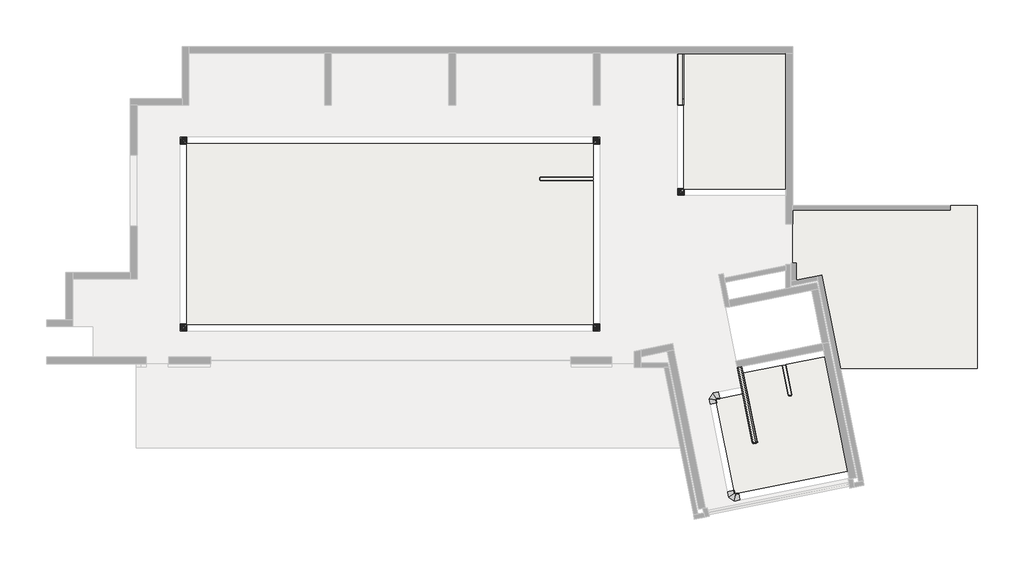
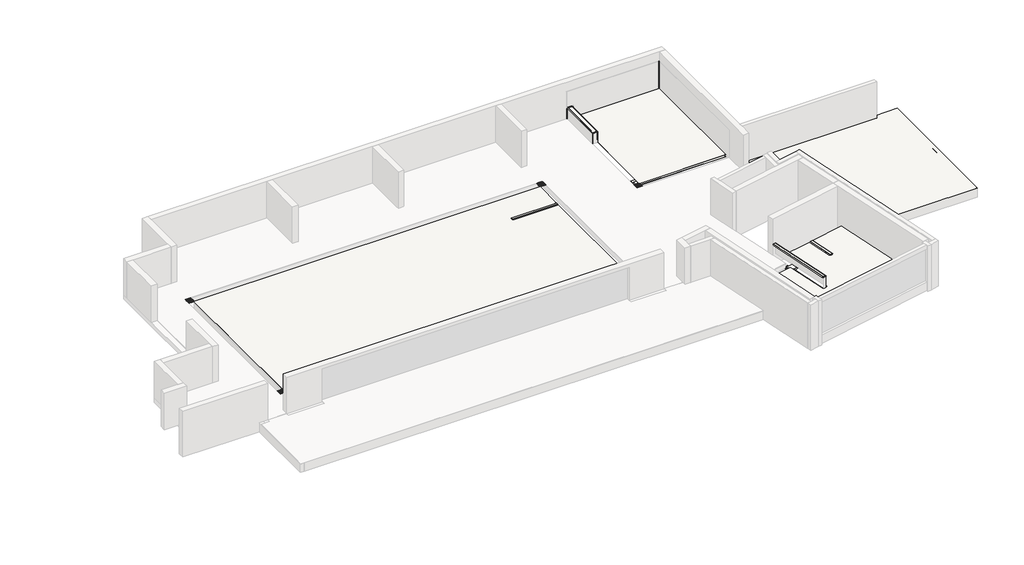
# One storey, part 2 of 2: 57 slabs, 14 proxies.
"""IFC4 building model written with IfcOpenShell, lengths in millimetres."""

from ifc_helpers import new_model, si_unit, point, frame, frame_2d, origin, place, context, project, spatial, polyline, circle_curve, trimmed, segment, composite_curve, outline, extrude, transform, mapped, element, save
from components import generic_models_d8669382, pieza_114_aqua_azul_liso_fd1d6eeb, pieza_115_aqua_azul_anti_slip_2f38e3b8, pieza_116_aqua_azul_liso_e9a23e22, rejilla_245_e2_blanco_63b6c073, rejilla_245_e2_blanco_29759594, pieza_112_aqua_azul_liso_81c370b3, pieza_112_aqua_azul_liso_8ca1fe8c, pieza_112_aqua_azul_liso_fe8c457d, pieza_112_aqua_azul_liso_8538c3ba, pieza_112_aqua_azul_liso_0fc99386, pieza_112_aqua_azul_liso_51e2d1d1, pieza_138_aqua_azul_liso_8d88db99, pieza_138_aqua_azul_liso_f5fe175b, pieza_138_aqua_azul_liso_dbd9f64d, pieza_138_aqua_azul_liso_cda4063a, pieza_138_aqua_azul_liso_f21874c8, pieza_138_aqua_azul_liso_9ae604b9, pieza_138_aqua_azul_liso_93942e5e, pieza_138_aqua_azul_liso_7f7dfdbc, pieza_138_aqua_azul_liso_8f6b2f5e, pieza_138_aqua_azul_liso_958fb2f0

model = new_model("IFC4")

# Units and contexts
model_context = context("Model", 3, world=origin())
ifc_project = project(units=[si_unit("LENGTHUNIT", "METRE", prefix="MILLI")], contexts=[model_context])

# Site, building, storey
site = spatial("IfcSite", under=ifc_project)
building = spatial("IfcBuilding", under=site)
storey = spatial("IfcBuildingStorey", under=building, Name="1_NPlaya", Elevation=-0.4)

# Proxies
placement = place(None, origin())
generic_models_shape = generic_models_d8669382(model_context)
element("IfcBuildingElementProxy", 1, Name="ROSA GRES_SI3 : Pieza SI3_Serena_Griggio_Anti-Slip", ObjectType="ROSA GRES_SI3 : Pieza SI3_Serena_Griggio_Anti-Slip", at=placement, inside=storey, context=model_context, shape_type="MappedRepresentation", body=[
    mapped(generic_models_shape, transform((31737.0262419, -42709.5183159, -12.4), x_axis=(-0.9805675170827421, -0.1961819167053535, 0.0), y_axis=(0.1961819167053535, -0.9805675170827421, 0.0), z_axis=(0.0, 0.0, 1.0))),
])
element("IfcBuildingElementProxy", 2, Name="ROSA GRES_SI3 : Pieza SI3_Serena_Griggio_Anti-Slip", ObjectType="ROSA GRES_SI3 : Pieza SI3_Serena_Griggio_Anti-Slip", at=placement, inside=storey, context=model_context, shape_type="MappedRepresentation", body=[
    mapped(generic_models_shape, transform((30899.0163535, -38520.9300436, -12.4), x_axis=(-0.19618191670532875, 0.9805675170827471, 0.0), y_axis=(-0.9805675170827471, -0.19618191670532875, 0.0), z_axis=(0.0, 0.0, 1.0))),
])
pieza_114_aqua_azul_liso_shape = pieza_114_aqua_azul_liso_fd1d6eeb(model_context)
element("IfcBuildingElementProxy", 3, Name="ROSA GRES_114 : Pieza 114_Aqua_Azul_Liso", ObjectType="ROSA GRES_114 : Pieza 114_Aqua_Azul_Liso", at=placement, inside=storey, context=model_context, shape_type="MappedRepresentation", body=[
    mapped(pieza_114_aqua_azul_liso_shape, transform((7467.4008663, -27191.4576466, -1360.4), x_axis=(1.0, 0.0, 0.0), y_axis=(0.0, 1.0, 0.0), z_axis=(0.0, 0.0, 1.0))),
])
element("IfcBuildingElementProxy", 4, Name="ROSA GRES_114 : Pieza 114_Aqua_Azul_Liso", ObjectType="ROSA GRES_114 : Pieza 114_Aqua_Azul_Liso", at=placement, inside=storey, context=model_context, shape_type="MappedRepresentation", body=[
    mapped(pieza_114_aqua_azul_liso_shape, transform((7467.4008663, -35211.5285494, -1360.4), x_axis=(0.0, 1.0, 0.0), y_axis=(-1.0, 0.0, 0.0), z_axis=(0.0, 0.0, 1.0))),
])
pieza_115_aqua_azul_anti_slip_shape = pieza_115_aqua_azul_anti_slip_2f38e3b8(model_context)
element("IfcBuildingElementProxy", 5, Name="ROSA GRES_115 : Pieza 115_Aqua_Azul_Anti-Slip", ObjectType="ROSA GRES_115 : Pieza 115_Aqua_Azul_Anti-Slip", at=placement, inside=storey, context=model_context, shape_type="MappedRepresentation", body=[
    mapped(pieza_115_aqua_azul_anti_slip_shape, transform((32705.3781832, -40413.35567, -26.3454542), x_axis=(0.9805675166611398, 0.19618191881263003, 0.0), y_axis=(-0.19618191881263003, 0.9805675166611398, 0.0), z_axis=(0.0, 0.0, 1.0))),
])
element("IfcBuildingElementProxy", 6, Name="ROSA GRES_115 : Pieza 115_Aqua_Azul_Anti-Slip", ObjectType="ROSA GRES_115 : Pieza 115_Aqua_Azul_Anti-Slip", at=placement, inside=storey, context=model_context, shape_type="MappedRepresentation", body=[
    mapped(pieza_115_aqua_azul_anti_slip_shape, transform((32666.2047747, -40421.1659843, 559.6), x_axis=(0.9805675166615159, 0.1961819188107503, 0.0), y_axis=(-0.1961819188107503, 0.9805675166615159, 0.0), z_axis=(0.0, 0.0, 1.0))),
])
element("IfcBuildingElementProxy", 7, Name="ROSA GRES_115 : Pieza 115_Aqua_Azul_Anti-Slip", ObjectType="ROSA GRES_115 : Pieza 115_Aqua_Azul_Anti-Slip", at=placement, inside=storey, context=model_context, shape_type="MappedRepresentation", body=[
    mapped(pieza_115_aqua_azul_anti_slip_shape, transform((32547.9977844, -40444.8156278, 559.6), x_axis=(0.1961820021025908, -0.9805674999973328, 0.0), y_axis=(0.9805674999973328, 0.1961820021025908, 0.0), z_axis=(0.0, 0.0, 1.0))),
])
pieza_116_aqua_azul_liso_shape = pieza_116_aqua_azul_liso_e9a23e22(model_context)
element("IfcBuildingElementProxy", 8, Name="ROSA GRES_116 : Pieza 116_Aqua_Azul_Liso", ObjectType="ROSA GRES_116 : Pieza 116_Aqua_Azul_Liso", at=placement, inside=storey, context=model_context, shape_type="MappedRepresentation", body=[
    mapped(pieza_116_aqua_azul_liso_shape, transform((34328.107284, -38304.0158219, -660.5), x_axis=(0.9805675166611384, 0.19618191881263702, 0.0), y_axis=(-0.19618191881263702, 0.9805675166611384, 0.0), z_axis=(0.0, 0.0, 1.0))),
])
element("IfcBuildingElementProxy", 9, Name="ROSA GRES_116 : Pieza 116_Aqua_Azul_Liso", ObjectType="ROSA GRES_116 : Pieza 116_Aqua_Azul_Liso", at=placement, inside=storey, context=model_context, shape_type="MappedRepresentation", body=[
    mapped(pieza_116_aqua_azul_liso_shape, transform((34023.8930277, -38364.8527439, -660.5), x_axis=(0.196181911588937, -0.9805675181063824, 0.0), y_axis=(0.9805675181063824, 0.196181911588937, 0.0), z_axis=(0.0, 0.0, 1.0))),
])
rejilla_245_e2_blanco_shape = rejilla_245_e2_blanco_63b6c073(model_context)
element("IfcBuildingElementProxy", 10, Name="ROSA GRES_245 E2 : Rejilla 245 E2_Blanco", ObjectType="ROSA GRES_245 E2 : Rejilla 245 E2_Blanco", at=placement, inside=storey, context=model_context, shape_type="MappedRepresentation", body=[
    mapped(rejilla_245_e2_blanco_shape, transform((7437.445438, -35241.4839777, -228.8), x_axis=(-1.0, 0.0, 0.0), y_axis=(0.0, -1.0, 0.0), z_axis=(0.0, 0.0, 1.0))),
])
element("IfcBuildingElementProxy", 11, Name="ROSA GRES_245 E2 : Rejilla 245 E2_Blanco", ObjectType="ROSA GRES_245 E2 : Rejilla 245 E2_Blanco", at=placement, inside=storey, context=model_context, shape_type="MappedRepresentation", body=[
    mapped(rejilla_245_e2_blanco_shape, transform((7437.445438, -27161.5022183, -228.8), x_axis=(0.0, 1.0, 0.0), y_axis=(-1.0, 0.0, 0.0), z_axis=(0.0, 0.0, 1.0))),
])
element("IfcBuildingElementProxy", 12, Name="ROSA GRES_245 E2 : Rejilla 245 E2_Blanco", ObjectType="ROSA GRES_245 E2 : Rejilla 245 E2_Blanco", at=placement, inside=storey, context=model_context, shape_type="MappedRepresentation", body=[
    mapped(rejilla_245_e2_blanco_shape, transform((29437.4363177, -29241.493098, -228.75), x_axis=(-1.0, 0.0, 0.0), y_axis=(0.0, -1.0, 0.0), z_axis=(0.0, 0.0, 1.0))),
])
rejilla_245_e2_blanco_2_shape = rejilla_245_e2_blanco_29759594(model_context)
element("IfcBuildingElementProxy", 13, Name="ROSA GRES_245 E2 : Rejilla 245 E2_Blanco", ObjectType="ROSA GRES_245 E2 : Rejilla 245 E2_Blanco", at=placement, inside=storey, context=model_context, shape_type="MappedRepresentation", body=[
    mapped(rejilla_245_e2_blanco_2_shape, transform((25517.4363125, -35241.4839777, -228.8), x_axis=(1.0, 0.0, 0.0), y_axis=(0.0, 1.0, 0.0), z_axis=(0.0, 0.0, 1.0))),
])
element("IfcBuildingElementProxy", 14, Name="ROSA GRES_245 E2 : Rejilla 245 E2_Blanco", ObjectType="ROSA GRES_245 E2 : Rejilla 245 E2_Blanco", at=placement, inside=storey, context=model_context, shape_type="MappedRepresentation", body=[
    mapped(rejilla_245_e2_blanco_2_shape, transform((25517.4363125, -27161.5022183, -228.8), x_axis=(0.0, 1.0, 0.0), y_axis=(-1.0, 0.0, 0.0), z_axis=(0.0, 0.0, 1.0))),
])

# Slabs
element("IfcSlab", 15, ObjectType="Pieza 244 G1_Patrón Recto_Aqua_Azul_Anti-Slip", at=placement, inside=storey, context=model_context, shape_type="SweptSolid", body=[
    extrude(outline(polyline([(23194.4590312, -27201.493098), (23377.4421424, -27201.493098), (23377.4421424, -28651.493098), (23194.4590312, -28651.493098), (23194.4590312, -27201.493098)])), frame((0.0, 0.0, -1126.9281195), z_axis=(0.0, 0.0, 1.0), x_axis=(1.0, 0.0, 0.0)), (0.0, 0.0, 1.0), 9.0),
])
element("IfcSlab", 16, ObjectType="Pieza 244 G1_Patrón Recto_Aqua_Azul_Anti-Slip", at=placement, inside=storey, context=model_context, shape_type="SweptSolid", body=[
    extrude(outline(polyline([(23494.4590312, -27201.493098), (23677.4421424, -27201.493098), (23677.4421424, -28651.493098), (23494.4590312, -28651.493098), (23494.4590312, -27201.493098)])), frame((0.0, 0.0, -987.0881195), z_axis=(0.0, 0.0, 1.0), x_axis=(1.0, 0.0, 0.0)), (0.0, 0.0, 1.0), 9.0),
])
element("IfcSlab", 17, ObjectType="Pieza 244 G1_Patrón Recto_Aqua_Azul_Anti-Slip", at=placement, inside=storey, context=model_context, shape_type="SweptSolid", body=[
    extrude(outline(polyline([(23794.4590312, -27201.493098), (23977.4421424, -27201.493098), (23977.4421424, -28651.493098), (23794.4590312, -28651.493098), (23794.4590312, -27201.493098)])), frame((0.0, 0.0, -847.2481195), z_axis=(0.0, 0.0, 1.0), x_axis=(1.0, 0.0, 0.0)), (0.0, 0.0, 1.0), 9.0),
])
element("IfcSlab", 18, ObjectType="Pieza 244 G1_Patrón Recto_Aqua_Azul_Anti-Slip", at=placement, inside=storey, context=model_context, shape_type="SweptSolid", body=[
    extrude(outline(polyline([(24094.4590312, -27201.493098), (24277.4421424, -27201.493098), (24277.4421424, -28651.493098), (24094.4590312, -28651.493098), (24094.4590312, -27201.493098)])), frame((0.0, 0.0, -707.4081195), z_axis=(0.0, 0.0, 1.0), x_axis=(1.0, 0.0, 0.0)), (0.0, 0.0, 1.0), 9.0),
])
element("IfcSlab", 19, ObjectType="Pieza 244 G1_Patrón Recto_Aqua_Azul_Anti-Slip", at=placement, inside=storey, context=model_context, shape_type="SweptSolid", body=[
    extrude(outline(polyline([(24394.4590312, -27201.493098), (24577.4421424, -27201.493098), (24577.4421424, -28651.493098), (24394.4590312, -28651.493098), (24394.4590312, -27201.493098)])), frame((0.0, 0.0, -567.5681195), z_axis=(0.0, 0.0, 1.0), x_axis=(1.0, 0.0, 0.0)), (0.0, 0.0, 1.0), 9.0),
])
element("IfcSlab", 20, ObjectType="Pieza 244 G1_Patrón Recto_Aqua_Azul_Anti-Slip", at=placement, inside=storey, context=model_context, shape_type="SweptSolid", body=[
    extrude(outline(polyline([(24694.4590312, -27201.493098), (24877.4421424, -27201.493098), (24877.4421424, -28651.493098), (24694.4590312, -28651.493098), (24694.4590312, -27201.493098)])), frame((0.0, 0.0, -427.7281195), z_axis=(0.0, 0.0, 1.0), x_axis=(1.0, 0.0, 0.0)), (0.0, 0.0, 1.0), 9.0),
])
element("IfcSlab", 21, ObjectType="Pieza 244 G1_Patrón Recto_Aqua_Azul_Anti-Slip", at=placement, inside=storey, context=model_context, shape_type="SweptSolid", body=[
    extrude(outline(polyline([(24994.4590312, -27201.493098), (25177.4421424, -27201.493098), (25177.4421424, -28651.493098), (24994.4590312, -28651.493098), (24994.4590312, -27201.493098)])), frame((0.0, 0.0, -287.8881195), z_axis=(0.0, 0.0, 1.0), x_axis=(1.0, 0.0, 0.0)), (0.0, 0.0, 1.0), 9.0),
])
element("IfcSlab", 22, ObjectType="Pieza 244 G1_Patrón Recto_Aqua_Azul_Anti-Slip", at=placement, inside=storey, context=model_context, shape_type="SweptSolid", body=[
    extrude(outline(polyline([(25294.4590312, -27201.493098), (25477.4421424, -27201.493098), (25477.4421424, -28651.493098), (25294.4590312, -28651.493098), (25294.4590312, -27201.493098)])), frame((0.0, 0.0, -148.0481195), z_axis=(0.0, 0.0, 1.0), x_axis=(1.0, 0.0, 0.0)), (0.0, 0.0, 1.0), 9.0),
])
element("IfcSlab", 23, ObjectType="Pieza 244 G1_Patrón Recto_Aqua_Azul_Liso", at=placement, inside=storey, context=model_context, shape_type="SweptSolid", body=[
    extrude(outline(polyline([(23117.4363125, -28691.493098), (25477.4363125, -28691.493098), (25477.4363125, -28811.493098), (23117.4363125, -28811.493098), (23117.4363125, -28691.493098)])), frame((0.0, 0.0, -9.4), z_axis=(0.0, 0.0, 1.0), x_axis=(1.0, 0.0, 0.0)), (0.0, 0.0, 1.0), 9.0),
])
element("IfcSlab", 24, ObjectType="Pieza 244 G1_Patrón Recto_Aqua_Azul_Anti-Slip", at=placement, inside=storey, context=model_context, shape_type="SweptSolid", body=[
    extrude(outline(polyline([(33977.4363177, -28418.5581387), (33977.4363177, -28601.5412499), (29477.4363177, -28601.5412499), (29477.4363177, -28418.5581387), (33977.4363177, -28418.5581387)])), frame((0.0, 0.0, -368.8572336), z_axis=(0.0, 0.0, 1.0), x_axis=(1.0, 0.0, 0.0)), (0.0, 0.0, 1.0), 9.0),
])
element("IfcSlab", 25, ObjectType="Pieza 244 G1_Patrón Recto_Aqua_Azul_Anti-Slip", at=placement, inside=storey, context=model_context, shape_type="SweptSolid", body=[
    extrude(outline(polyline([(33977.4363177, -28718.5581387), (33977.4363177, -28901.5412499), (29477.4363177, -28901.5412499), (29477.4363177, -28718.5581387), (33977.4363177, -28718.5581387)])), frame((0.0, 0.0, -248.8572336), z_axis=(0.0, 0.0, 1.0), x_axis=(1.0, 0.0, 0.0)), (0.0, 0.0, 1.0), 9.0),
])
element("IfcSlab", 26, ObjectType="Pieza 244 G1_Patrón Recto_Aqua_Azul_Anti-Slip", at=placement, inside=storey, context=model_context, shape_type="SweptSolid", body=[
    extrude(outline(polyline([(33977.4363177, -29018.5581387), (33977.4363177, -29201.5412499), (29477.4363177, -29201.5412499), (29477.4363177, -29018.5581387), (33977.4363177, -29018.5581387)])), frame((0.0, 0.0, -128.8572336), z_axis=(0.0, 0.0, 1.0), x_axis=(1.0, 0.0, 0.0)), (0.0, 0.0, 1.0), 9.0),
])
element("IfcSlab", 27, ObjectType="Pieza 244 G1_Patrón Recto_Aqua_Azul_Liso", at=placement, inside=storey, context=model_context, shape_type="SweptSolid", body=[
    extrude(outline(polyline([(29232.4363177, -25461.493098), (29232.4363177, -23231.5196866), (29437.4363177, -23231.5196866), (29437.4363177, -25461.493098), (29232.4363177, -25461.493098)])), frame((0.0, 0.0, 590.6), z_axis=(0.0, 0.0, 1.0), x_axis=(1.0, 0.0, 0.0)), (0.0, 0.0, 1.0), 9.0),
])
element("IfcSlab", 28, ObjectType="Pieza 244 G1_Patrón Recto_Aqua_Azul_Liso", at=placement, inside=storey, context=model_context, shape_type="SweptSolid", body=[
    extrude(outline(polyline([(31646.2472972, -42255.7818981), (36245.1090025, -41335.6887327), (36551.2995561, -41618.5142467), (31712.4388002, -42586.6240007), (31646.2472972, -42255.7818981)])), frame((0.0, 0.0, -659.4), z_axis=(0.0, 0.0, 1.0), x_axis=(1.0, 0.0, 0.0)), (0.0, 0.0, 1.0), 9.0),
])
element("IfcSlab", 29, ObjectType="Pieza 244 G1_Patrón Recto_Aqua_Azul_Liso", at=placement, inside=storey, context=model_context, shape_type="SweptSolid", body=[
    extrude(outline(polyline([(36245.1089958, -41335.6887265), (35411.5579265, -37169.3870775), (35585.3443318, -36790.4231062), (36551.2995515, -41618.5142424), (36245.1089958, -41335.6887265)])), frame((0.0, 0.0, -659.4), z_axis=(0.0, 0.0, 1.0), x_axis=(1.0, 0.0, 0.0)), (0.0, 0.0, 1.0), 9.0),
])
element("IfcSlab", 30, ObjectType="Pieza 244 G1_Patrón Recto_Aqua_Azul_Liso", at=placement, inside=storey, context=model_context, shape_type="SweptSolid", body=[
    extrude(outline(polyline([(35411.5579265, -37169.3870775), (34499.6302246, -37351.8362909), (34153.9736146, -37076.8204952), (35585.3325286, -36790.4488446), (35411.5579265, -37169.3870775)])), frame((0.0, 0.0, -659.4), z_axis=(0.0, 0.0, 1.0), x_axis=(1.0, 0.0, 0.0)), (0.0, 0.0, 1.0), 9.0),
])
element("IfcSlab", 31, ObjectType="Pieza 244 G1_Patrón Recto_Aqua_Azul_Liso", at=placement, inside=storey, context=model_context, shape_type="SweptSolid", body=[
    extrude(outline(polyline([(34499.6302246, -37351.8362909), (34773.8089644, -38722.2520336), (34410.4797444, -38358.9228137), (34153.9691097, -37076.8169108), (34499.6302246, -37351.8362909)])), frame((0.0, 0.0, -659.4), z_axis=(0.0, 0.0, 1.0), x_axis=(1.0, 0.0, 0.0)), (0.0, 0.0, 1.0), 9.0),
])
element("IfcSlab", 32, ObjectType="Pieza 244 G1_Patrón Recto_Aqua_Azul_Liso", at=placement, inside=storey, context=model_context, shape_type="SweptSolid", body=[
    extrude(outline(polyline([(34773.8089644, -38722.2520336), (33773.6301407, -38922.3575643), (33969.1800716, -38447.2135383), (34410.4797444, -38358.9228137), (34773.8089644, -38722.2520336)])), frame((0.0, 0.0, -659.4), z_axis=(0.0, 0.0, 1.0), x_axis=(1.0, 0.0, 0.0)), (0.0, 0.0, 1.0), 9.0),
])
element("IfcSlab", 33, ObjectType="Pieza 244 G1_Patrón Recto_Aqua_Azul_Liso", at=placement, inside=storey, context=model_context, shape_type="SweptSolid", body=[
    extrude(outline(polyline([(33773.6301322, -38922.357585), (33499.4513349, -37551.9419036), (33712.6952503, -37165.1070009), (33969.19752, -38447.1711424), (33773.6301322, -38922.357585)])), frame((0.0, 0.0, -659.4), z_axis=(0.0, 0.0, 1.0), x_axis=(1.0, 0.0, 0.0)), (0.0, 0.0, 1.0), 9.0),
])
element("IfcSlab", 34, ObjectType="Pieza 244 G1_Patrón Recto_Aqua_Azul_Liso", at=placement, inside=storey, context=model_context, shape_type="SweptSolid", body=[
    extrude(outline(polyline([(33499.4513349, -37551.9419036), (32587.5235298, -37734.3911165), (32281.2916633, -37451.4876278), (33712.6952503, -37165.1070009), (33499.4513349, -37551.9419036)])), frame((0.0, 0.0, -659.4), z_axis=(0.0, 0.0, 1.0), x_axis=(1.0, 0.0, 0.0)), (0.0, 0.0, 1.0), 9.0),
])
element("IfcSlab", 35, ObjectType="Pieza 244 G1_Patrón Recto_Aqua_Azul_Liso", at=placement, inside=storey, context=model_context, shape_type="SweptSolid", body=[
    extrude(outline(polyline([(32587.5235298, -37734.3911165), (33107.4055811, -40332.8949894), (32867.3818294, -40380.9165077), (32281.2916633, -37451.4876278), (32587.5235298, -37734.3911165)])), frame((0.0, 0.0, -659.4), z_axis=(0.0, 0.0, 1.0), x_axis=(1.0, 0.0, 0.0)), (0.0, 0.0, 1.0), 9.0),
])
element("IfcSlab", 36, ObjectType="Pieza 244 G1_Patrón Recto_Aqua_Azul_Liso", at=placement, inside=storey, context=model_context, shape_type="SweptSolid", body=[
    extrude(outline(polyline([(33849.9121853, -37009.8460142), (33967.5802682, -36986.3041846), (34234.9384401, -38322.6289779), (34117.2703646, -38346.1707761), (33849.9121853, -37009.8460142)])), frame((0.0, 0.0, -21.4), z_axis=(0.0, 0.0, 1.0), x_axis=(1.0, 0.0, 0.0)), (0.0, 0.0, 1.0), 9.0),
])
element("IfcSlab", 37, ObjectType="Pieza 244 G1_Patrón Recto_Aqua_Azul_Anti-Slip", at=placement, inside=storey, context=model_context, shape_type="SweptSolid", body=[
    extrude(outline(polyline([(32547.9977516, -40444.8156353), (31879.9516152, -37105.751283), (31998.1588351, -37082.1015916), (32666.2047744, -40421.1659833), (32547.9977516, -40444.8156353)])), frame((0.0, 0.0, 590.6), z_axis=(0.0, 0.0, 1.0), x_axis=(1.0, 0.0, 0.0)), (0.0, 0.0, 1.0), 9.0),
])
element("IfcSlab", 38, ObjectType="Pieza 316_Patrón 1/3_Serena_Griggio_Anti-Slip", at=placement, inside=storey, context=model_context, shape_type="SweptSolid", body=[
    extrude(outline(polyline([(41277.4363177, -30132.2845833), (41277.4363177, -29932.2846425), (42472.5756156, -29932.2846425), (42472.5756156, -37149.8177469), (36412.5756156, -37149.8177469), (35586.219622, -33019.4786743), (34442.4363177, -33248.3151384), (34442.4363177, -32488.3151384), (34277.4363177, -32488.3151384), (34277.4363177, -30132.2845833), (41277.4363177, -30132.2845833)])), frame((0.0, 0.0, -9.4), z_axis=(0.0, 0.0, 1.0), x_axis=(1.0, 0.0, 0.0)), (0.0, 0.0, 1.0), 9.0),
])
element("IfcSlab", 39, ObjectType="Agua", at=placement, inside=storey, context=model_context, shape_type="SweptSolid", body=[
    extrude(outline(composite_curve([segment(polyline([(25477.3859623, -27201.4916128), (25477.3859623, -28656.493098), (23122.4363125, -28656.493098)]), True, "CONTINUOUS"), segment(trimmed(circle_curve(frame_2d((23122.4363125, -28696.493098)), 40.0), [point((23122.4363125, -28656.493098))], [point((23082.4363125, -28696.493098))], True, "CARTESIAN"), True, "CONTINUOUS"), segment(polyline([(23082.4363125, -28696.493098), (23082.4363125, -28806.493098)]), True, "CONTINUOUS"), segment(trimmed(circle_curve(frame_2d((23122.4363125, -28806.493098)), 40.0), [point((23082.4363125, -28806.493098))], [point((23122.4363125, -28846.493098))], True, "CARTESIAN"), True, "CONTINUOUS"), segment(polyline([(23122.4363125, -28846.493098), (25477.3859623, -28846.493098), (25477.3859623, -35201.493098), (7477.4363177, -35201.493098), (7477.4363177, -27201.4916128), (25477.3859623, -27201.4916128)]), True, "CONTINUOUS")], self_intersect=False)), frame((0.0, 0.0, -21.4), z_axis=(0.0, 0.0, 1.0), x_axis=(1.0, 0.0, 0.0)), (0.0, 0.0, 1.0), 1.0),
])
element("IfcSlab", 40, ObjectType="Agua", at=placement, inside=storey, context=model_context, shape_type="SweptSolid", body=[
    extrude(outline(composite_curve([segment(trimmed(circle_curve(frame_2d((33937.4363177, -23241.493098)), 40.0), [point((33937.4363177, -23201.493098))], [point((33977.4363177, -23241.493098))], False, "CARTESIAN"), True, "CONTINUOUS"), segment(polyline([(33977.4363177, -23241.493098), (33977.4363177, -29201.493098), (29477.4363177, -29201.493098), (29477.4363177, -23241.493098)]), True, "CONTINUOUS"), segment(trimmed(circle_curve(frame_2d((29517.4363177, -23241.493098)), 40.0), [point((29477.4363177, -23241.493098))], [point((29517.4363177, -23201.493098))], False, "CARTESIAN"), True, "CONTINUOUS"), segment(polyline([(29517.4363177, -23201.493098), (33937.4363177, -23201.493098)]), True, "CONTINUOUS")], self_intersect=False)), frame((0.0, 0.0, -21.4), z_axis=(0.0, 0.0, 1.0), x_axis=(1.0, 0.0, 0.0)), (0.0, 0.0, 1.0), 1.0),
])
element("IfcSlab", 41, ObjectType="Agua", at=placement, inside=storey, context=model_context, shape_type="SweptSolid", body=[
    extrude(outline(composite_curve([segment(polyline([(32075.6974306, -38285.5117322), (32509.5508323, -40454.0222656)]), True, "CONTINUOUS"), segment(trimmed(circle_curve(frame_2d((32548.4613093, -40444.7500072)), 40.0), [point((32509.5508323, -40454.0222656))], [point((32554.8734888, -40484.2327117))], True, "CARTESIAN"), True, "CONTINUOUS"), segment(polyline([(32554.8734888, -40484.2327117), (32716.2336801, -40451.9494151)]), True, "CONTINUOUS"), segment(trimmed(circle_curve(frame_2d((32708.3864033, -40412.7267145)), 40.0), [point((32716.2336801, -40451.9494151))], [point((32747.609104, -40404.8794374))], True, "CARTESIAN"), True, "CONTINUOUS"), segment(polyline([(32747.609104, -40404.8794374), (32136.9325324, -37352.5615079), (33810.6894844, -37017.6932921), (34078.0476675, -38354.0180733)]), True, "CONTINUOUS"), segment(trimmed(circle_curve(frame_2d((34117.2703683, -38346.1707968)), 40.0), [point((34078.0476675, -38354.0180733))], [point((34125.117645, -38385.3934975))], True, "CARTESIAN"), True, "CONTINUOUS"), segment(polyline([(34125.117645, -38385.3934975), (34246.8438721, -38361.0397591)]), True, "CONTINUOUS"), segment(trimmed(circle_curve(frame_2d((34234.9436559, -38322.6550476)), 40.1870778), [point((34246.8438721, -38361.0397591))], [point((34274.9261547, -38318.6052316))], True, "CARTESIAN"), True, "CONTINUOUS"), segment(polyline([(34274.9261547, -38318.6052316), (34006.8029504, -36978.4569105), (35692.5110164, -36641.1976378), (36707.6355663, -41715.0496564), (31737.026242, -42709.5183161), (30899.0163535, -38520.9300436), (32075.6974306, -38285.5117322)]), True, "CONTINUOUS")], self_intersect=False)), frame((0.0, 0.0, -41.4), z_axis=(0.0, 0.0, 1.0), x_axis=(1.0, 0.0, 0.0)), (0.0, 0.0, 1.0), 1.0),
])
pieza_112_aqua_azul_liso_shape = pieza_112_aqua_azul_liso_81c370b3(model_context)
element("IfcSlab", 42, ObjectType="ROSA GRES_112 (corte) : Pieza 112_Aqua_Azul_Liso", at=placement, inside=storey, context=model_context, shape_type="MappedRepresentation", body=[
    mapped(pieza_112_aqua_azul_liso_shape, transform((36359.6013384, -41697.6599632, -660.5), x_axis=(0.9805675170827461, 0.19618191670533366, 0.0), y_axis=(-0.19618191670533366, 0.9805675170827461, 0.0), z_axis=(0.0, 0.0, 1.0))),
])
element("IfcSlab", 43, ObjectType="ROSA GRES_112 (corte) : Pieza 112_Aqua_Azul_Liso", at=placement, inside=storey, context=model_context, shape_type="MappedRepresentation", body=[
    mapped(pieza_112_aqua_azul_liso_shape, transform((35664.4960021, -36982.021645, -660.5), x_axis=(-0.19618194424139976, 0.9805675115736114, 0.0), y_axis=(-0.9805675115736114, -0.19618194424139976, 0.0), z_axis=(0.0, 0.0, 1.0))),
])
element("IfcSlab", 44, ObjectType="ROSA GRES_112 (corte) : Pieza 112_Aqua_Azul_Liso", at=placement, inside=storey, context=model_context, shape_type="MappedRepresentation", body=[
    mapped(pieza_112_aqua_azul_liso_shape, transform((34345.671832, -36997.674777, -660.5), x_axis=(-0.9805675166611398, -0.1961819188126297, 0.0), y_axis=(0.1961819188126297, -0.9805675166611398, 0.0), z_axis=(0.0, 0.0, 1.0))),
])
element("IfcSlab", 45, ObjectType="ROSA GRES_112 (corte) : Pieza 112_Aqua_Azul_Liso", at=placement, inside=storey, context=model_context, shape_type="MappedRepresentation", body=[
    mapped(pieza_112_aqua_azul_liso_shape, transform((32472.9898735, -37372.3418986, -660.5), x_axis=(-0.9805675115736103, -0.19618194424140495, 0.0), y_axis=(0.19618194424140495, -0.9805675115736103, 0.0), z_axis=(0.0, 0.0, 1.0))),
])
element("IfcSlab", 46, ObjectType="ROSA GRES_112 (corte) : Pieza 112_Aqua_Azul_Liso", at=placement, inside=storey, context=model_context, shape_type="MappedRepresentation", body=[
    mapped(pieza_112_aqua_azul_liso_shape, transform((33791.8409697, -37356.8052144, -660.5), x_axis=(-0.1961819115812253, 0.9805675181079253, 0.0), y_axis=(-0.9805675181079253, -0.1961819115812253, 0.0), z_axis=(0.0, 0.0, 1.0))),
])
pieza_112_aqua_azul_liso_2_shape = pieza_112_aqua_azul_liso_8ca1fe8c(model_context)
element("IfcSlab", 47, ObjectType="ROSA GRES_112 (corte) : Pieza 112_Aqua_Azul_Liso", at=placement, inside=storey, context=model_context, shape_type="MappedRepresentation", body=[
    mapped(pieza_112_aqua_azul_liso_2_shape, transform((36550.5992263, -41411.1214761, -660.5), x_axis=(0.1961819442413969, -0.980567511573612, 0.0), y_axis=(0.980567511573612, 0.1961819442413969, 0.0), z_axis=(0.0, 0.0, 1.0))),
])
element("IfcSlab", 48, ObjectType="ROSA GRES_112 (corte) : Pieza 112_Aqua_Azul_Liso", at=placement, inside=storey, context=model_context, shape_type="MappedRepresentation", body=[
    mapped(pieza_112_aqua_azul_liso_2_shape, transform((35377.9397626, -36791.1491639, -660.5), x_axis=(0.9805675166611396, 0.19618191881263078, 0.0), y_axis=(-0.19618191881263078, 0.9805675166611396, 0.0), z_axis=(0.0, 0.0, 1.0))),
])
element("IfcSlab", 49, ObjectType="ROSA GRES_112 (corte) : Pieza 112_Aqua_Azul_Liso", at=placement, inside=storey, context=model_context, shape_type="MappedRepresentation", body=[
    mapped(pieza_112_aqua_azul_liso_2_shape, transform((34154.6702931, -37284.213994, -660.5), x_axis=(-0.19618191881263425, 0.980567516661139, 0.0), y_axis=(-0.980567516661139, -0.19618191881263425, 0.0), z_axis=(0.0, 0.0, 1.0))),
])
element("IfcSlab", 50, ObjectType="ROSA GRES_112 (corte) : Pieza 112_Aqua_Azul_Liso", at=placement, inside=storey, context=model_context, shape_type="MappedRepresentation", body=[
    mapped(pieza_112_aqua_azul_liso_2_shape, transform((32281.9927481, -37658.8842176, -660.5), x_axis=(-0.19618191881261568, 0.9805675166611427, 0.0), y_axis=(-0.9805675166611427, -0.19618191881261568, 0.0), z_axis=(0.0, 0.0, 1.0))),
])
element("IfcSlab", 51, ObjectType="ROSA GRES_112 (corte) : Pieza 112_Aqua_Azul_Liso", at=placement, inside=storey, context=model_context, shape_type="MappedRepresentation", body=[
    mapped(pieza_112_aqua_azul_liso_2_shape, transform((33505.3024839, -37165.8073261, -660.5), x_axis=(0.9805675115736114, 0.19618194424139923, 0.0), y_axis=(-0.19618194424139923, 0.9805675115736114, 0.0), z_axis=(0.0, 0.0, 1.0))),
])
pieza_112_aqua_azul_liso_3_shape = pieza_112_aqua_azul_liso_fe8c457d(model_context)
element("IfcSlab", 52, ObjectType="ROSA GRES_112 : Pieza 112_Aqua_Azul_Liso", at=placement, inside=storey, context=model_context, shape_type="MappedRepresentation", body=[
    mapped(pieza_112_aqua_azul_liso_3_shape, transform((29467.4629063, -23191.5196866, 9.6), x_axis=(0.0, 0.0, 1.0), y_axis=(0.0, -1.0, 0.0), z_axis=(1.0, 0.0, 0.0))),
])
pieza_112_aqua_azul_liso_4_shape = pieza_112_aqua_azul_liso_8538c3ba(model_context)
element("IfcSlab", 53, ObjectType="ROSA GRES_112 : Pieza 112_Aqua_Azul_Liso", at=placement, inside=storey, context=model_context, shape_type="MappedRepresentation", body=[
    mapped(pieza_112_aqua_azul_liso_4_shape, transform((29202.4363177, -23191.5196866, 559.6), x_axis=(0.0, 0.0, -1.0), y_axis=(0.0, -1.0, 0.0), z_axis=(-1.0, 0.0, 0.0))),
])
pieza_112_aqua_azul_liso_5_shape = pieza_112_aqua_azul_liso_0fc99386(model_context)
element("IfcSlab", 54, ObjectType="ROSA GRES_112 : Pieza 112_Aqua_Azul_Liso", at=placement, inside=storey, context=model_context, shape_type="MappedRepresentation", body=[
    mapped(pieza_112_aqua_azul_liso_5_shape, transform((29232.4363177, -23191.5196866, 589.6), x_axis=(1.0, 0.0, 0.0), y_axis=(0.0, 1.0, 0.0), z_axis=(0.0, 0.0, 1.0))),
])
pieza_112_aqua_azul_liso_6_shape = pieza_112_aqua_azul_liso_51e2d1d1(model_context)
element("IfcSlab", 55, ObjectType="ROSA GRES_112 : Pieza 112_Aqua_Azul_Liso", at=placement, inside=storey, context=model_context, shape_type="MappedRepresentation", body=[
    mapped(pieza_112_aqua_azul_liso_6_shape, transform((33987.4629063, -23191.4665095, 12.7698178), x_axis=(0.0, 0.0, 1.0), y_axis=(-1.0, 0.0, 0.0), z_axis=(0.0, -1.0, 0.0))),
])
pieza_138_aqua_azul_liso_shape = pieza_138_aqua_azul_liso_8d88db99(model_context)
element("IfcSlab", 56, ObjectType="ROSA GRES_138 : Pieza 138_Aqua_Azul_Liso", at=placement, inside=storey, context=model_context, shape_type="MappedRepresentation", body=[
    mapped(pieza_138_aqua_azul_liso_shape, transform((29437.4363177, -23231.5196866, 559.6), x_axis=(0.0, -1.0, 0.0), y_axis=(0.0, 0.0, -1.0), z_axis=(1.0, 0.0, 0.0))),
])
element("IfcSlab", 57, ObjectType="ROSA GRES_138 : Pieza 138_Aqua_Azul_Liso", at=placement, inside=storey, context=model_context, shape_type="MappedRepresentation", body=[
    mapped(pieza_138_aqua_azul_liso_shape, transform((29232.4363177, -23231.5196866, 559.6), x_axis=(0.0, -1.0, 0.0), y_axis=(1.0, 0.0, 0.0), z_axis=(0.0, 0.0, 1.0))),
])
pieza_138_aqua_azul_liso_2_shape = pieza_138_aqua_azul_liso_f5fe175b(model_context)
element("IfcSlab", 58, ObjectType="ROSA GRES_138 : Pieza 138_Aqua_Azul_Liso", at=placement, inside=storey, context=model_context, shape_type="MappedRepresentation", body=[
    mapped(pieza_138_aqua_azul_liso_2_shape, transform((29437.4363177, -25461.493098, 559.6), x_axis=(-1.0, 0.0, 0.0), y_axis=(0.0, 0.0, -1.0), z_axis=(0.0, -1.0, 0.0))),
])
pieza_138_aqua_azul_liso_3_shape = pieza_138_aqua_azul_liso_dbd9f64d(model_context)
element("IfcSlab", 59, ObjectType="ROSA GRES_138 : Pieza 138_Aqua_Azul_Liso", at=placement, inside=storey, context=model_context, shape_type="MappedRepresentation", body=[
    mapped(pieza_138_aqua_azul_liso_3_shape, transform((29437.4363177, -25224.1707215, 559.6), x_axis=(0.0, -1.0, 0.0), y_axis=(0.0, 0.0, -1.0), z_axis=(1.0, 0.0, 0.0))),
])
pieza_138_aqua_azul_liso_4_shape = pieza_138_aqua_azul_liso_cda4063a(model_context)
element("IfcSlab", 60, ObjectType="ROSA GRES_138 : Pieza 138_Aqua_Azul_Liso", at=placement, inside=storey, context=model_context, shape_type="MappedRepresentation", body=[
    mapped(pieza_138_aqua_azul_liso_4_shape, transform((29232.4363177, -25461.493098, 559.6), x_axis=(0.0, 0.0, -1.0), y_axis=(0.0, -1.0, 0.0), z_axis=(-1.0, 0.0, 0.0))),
])
pieza_138_aqua_azul_liso_5_shape = pieza_138_aqua_azul_liso_f21874c8(model_context)
element("IfcSlab", 61, ObjectType="ROSA GRES_138 : Pieza 138_Aqua_Azul_Liso", at=placement, inside=storey, context=model_context, shape_type="MappedRepresentation", body=[
    mapped(pieza_138_aqua_azul_liso_5_shape, transform((29232.4363177, -25224.1707215, 559.6), x_axis=(0.0, -1.0, 0.0), y_axis=(0.0, 0.0, 1.0), z_axis=(-1.0, 0.0, 0.0))),
])
pieza_138_aqua_azul_liso_6_shape = pieza_138_aqua_azul_liso_9ae604b9(model_context)
element("IfcSlab", 62, ObjectType="ROSA GRES_138 : Pieza 138_Aqua_Azul_Liso", at=placement, inside=storey, context=model_context, shape_type="MappedRepresentation", body=[
    mapped(pieza_138_aqua_azul_liso_6_shape, transform((29437.4363177, -25461.493098, 559.6), x_axis=(0.0, 0.0, -1.0), y_axis=(0.0, 1.0, 0.0), z_axis=(1.0, 0.0, 0.0))),
])
pieza_138_aqua_azul_liso_7_shape = pieza_138_aqua_azul_liso_93942e5e(model_context)
element("IfcSlab", 63, ObjectType="ROSA GRES_138 (corte) : Pieza 138_Aqua_Azul_Liso", at=placement, inside=storey, context=model_context, shape_type="MappedRepresentation", body=[
    mapped(pieza_138_aqua_azul_liso_7_shape, transform((36006.3408064, -41383.4590288, -690.4), x_axis=(0.9805675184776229, 0.19618190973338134, 0.0), y_axis=(-0.19618190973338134, 0.9805675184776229, 0.0), z_axis=(0.0, 0.0, 1.0))),
])
element("IfcSlab", 64, ObjectType="ROSA GRES_138 (corte) : Pieza 138_Aqua_Azul_Liso", at=placement, inside=storey, context=model_context, shape_type="MappedRepresentation", body=[
    mapped(pieza_138_aqua_azul_liso_7_shape, transform((32826.2917114, -37686.6207738, -690.4), x_axis=(-0.9805675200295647, -0.19618190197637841, 0.0), y_axis=(0.19618190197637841, -0.9805675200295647, 0.0), z_axis=(0.0, 0.0, 1.0))),
])
element("IfcSlab", 65, ObjectType="ROSA GRES_138 (corte) : Pieza 138_Aqua_Azul_Liso", at=placement, inside=storey, context=model_context, shape_type="MappedRepresentation", body=[
    mapped(pieza_138_aqua_azul_liso_7_shape, transform((33547.2295346, -37790.7495528, -690.4), x_axis=(-0.1961819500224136, 0.9805675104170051, 0.0), y_axis=(-0.9805675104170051, -0.1961819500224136, 0.0), z_axis=(0.0, 0.0, 1.0))),
])
pieza_138_aqua_azul_liso_8_shape = pieza_138_aqua_azul_liso_7f7dfdbc(model_context)
element("IfcSlab", 66, ObjectType="ROSA GRES_138 (corte) : Pieza 138_Aqua_Azul_Liso", at=placement, inside=storey, context=model_context, shape_type="MappedRepresentation", body=[
    mapped(pieza_138_aqua_azul_liso_8_shape, transform((36197.3386971, -41096.9205357, -690.4), x_axis=(0.19618193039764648, -0.9805675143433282, 0.0), y_axis=(0.9805675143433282, 0.19618193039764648, 0.0), z_axis=(0.0, 0.0, 1.0))),
])
element("IfcSlab", 67, ObjectType="ROSA GRES_138 (corte) : Pieza 138_Aqua_Azul_Liso", at=placement, inside=storey, context=model_context, shape_type="MappedRepresentation", body=[
    mapped(pieza_138_aqua_azul_liso_8_shape, transform((32635.3016547, -37973.1983668, -690.4), x_axis=(-0.1961819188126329, 0.9805675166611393, 0.0), y_axis=(-0.9805675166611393, -0.1961819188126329, 0.0), z_axis=(0.0, 0.0, 1.0))),
])
element("IfcSlab", 68, ObjectType="ROSA GRES_138 (corte) : Pieza 138_Aqua_Azul_Liso", at=placement, inside=storey, context=model_context, shape_type="MappedRepresentation", body=[
    mapped(pieza_138_aqua_azul_liso_8_shape, transform((33260.614833, -37599.7258522, -690.4), x_axis=(0.9805675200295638, 0.19618190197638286, 0.0), y_axis=(-0.19618190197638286, 0.9805675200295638, 0.0), z_axis=(0.0, 0.0, 1.0))),
])
pieza_138_aqua_azul_liso_9_shape = pieza_138_aqua_azul_liso_8f6b2f5e(model_context)
element("IfcSlab", 69, ObjectType="ROSA GRES_138 : Pieza 138_Aqua_Azul_Liso", at=placement, inside=storey, context=model_context, shape_type="MappedRepresentation", body=[
    mapped(pieza_138_aqua_azul_liso_9_shape, transform((32547.9977845, -40444.8156287, 559.5999993), x_axis=(0.9805675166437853, 0.19618191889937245, 0.0), y_axis=(0.0, 0.0, 1.0), z_axis=(0.19618191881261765, -0.9805675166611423, 0.0))),
])
pieza_138_aqua_azul_liso_10_shape = pieza_138_aqua_azul_liso_958fb2f0(model_context)
element("IfcSlab", 70, ObjectType="ROSA GRES_138 : Pieza 138_Aqua_Azul_Liso", at=placement, inside=storey, context=model_context, shape_type="MappedRepresentation", body=[
    mapped(pieza_138_aqua_azul_liso_10_shape, transform((31879.9516146, -37105.7512797, 559.6), x_axis=(0.19618200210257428, -0.9805674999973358, 0.0), y_axis=(0.0, 0.0, 0.9999999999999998), z_axis=(-0.9805674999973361, -0.1961820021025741, 0.0))),
])
element("IfcSlab", 71, ObjectType="ROSA GRES_138 : Pieza 138_Aqua_Azul_Liso", at=placement, inside=storey, context=model_context, shape_type="MappedRepresentation", body=[
    mapped(pieza_138_aqua_azul_liso_10_shape, transform((32666.2047746, -40421.1659843, 559.6), x_axis=(-0.1961819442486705, 0.9805675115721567, 0.0), y_axis=(0.0, 0.0, 1.0000000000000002), z_axis=(0.9805675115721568, 0.19618194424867, 0.0))),
])

save(model, "model.ifc")
